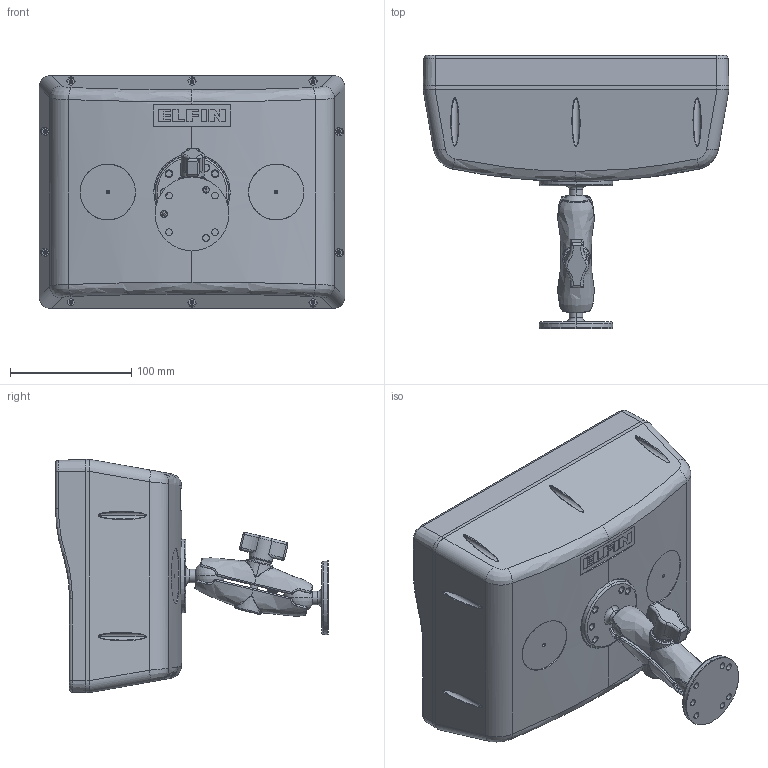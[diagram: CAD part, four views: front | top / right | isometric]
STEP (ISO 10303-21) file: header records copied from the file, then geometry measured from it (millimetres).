
FILE_DESCRIPTION (( 'STEP AP214' ), '1' );
FILE_NAME ('Assieme Vision + Supporto corto.STEP', '2021-10-08T10:21:47', ( '' ), ( '' ), 'SwSTEP 2.0', 'SolidWorks 2013', '' );
FILE_SCHEMA (( 'AUTOMOTIVE_DESIGN' ));
Length unit declared in the file: millimetre
Products named in the file (4): Assieme Vision + Supporto corto; Fissagio; RAM-B-201U; 080V2621-8
Assembly tree (4 placements, depth 2):
  Assieme Vision + Supporto corto
    Fissagio  x2
    RAM-B-201U
    080V2621-8
Bounding box: 252.54 x 225.3 x 192.54 mm (x, y, z)
Volume: 619712.9 mm3; surface area: 405254.1 mm2
Topology: 13 solids, 13 shells, 1293 faces, 3361 edges, 2109 vertices
Faces by surface type: cylinder 474, plane 381, bspline 244, cone 103, torus 85, sphere 6
Entity records: 80456 total; most frequent: CARTESIAN_POINT 38666, ORIENTED_EDGE 6438, DIRECTION 5275, EDGE_CURVE 3219, VERTEX_POINT 2044, AXIS2_PLACEMENT_3D 1951, LINE 1373, VECTOR 1373
